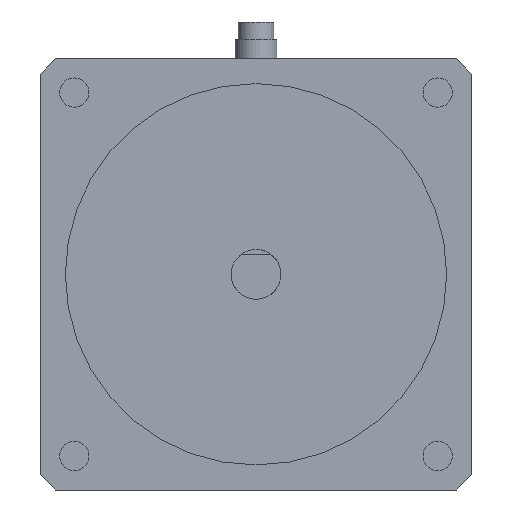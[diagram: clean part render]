
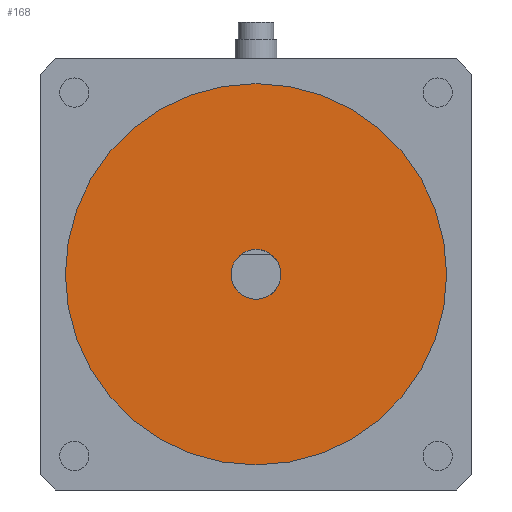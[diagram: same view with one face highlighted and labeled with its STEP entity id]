
A CAD part, front view. The second image highlights one B-rep face of the part: STEP entity #168.
In plain terms, the highlighted planar face has unit normal (0, -1, 0).
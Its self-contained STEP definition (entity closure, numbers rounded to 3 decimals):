
#168 = ADVANCED_FACE( '', ( #404, #405 ), #406, .F. );
#404 = FACE_BOUND( '', #716, .T. );
#405 = FACE_OUTER_BOUND( '', #717, .T. );
#406 = PLANE( '', #718 );
#716 = EDGE_LOOP( '', ( #1143 ) );
#717 = EDGE_LOOP( '', ( #1144 ) );
#718 = AXIS2_PLACEMENT_3D( '', #1145, #1146, #1147 );
#1143 = ORIENTED_EDGE( '', *, *, #1682, .T. );
#1144 = ORIENTED_EDGE( '', *, *, #1683, .F. );
#1145 = CARTESIAN_POINT( '', ( -222.076, -2.5, -12.889 ) );
#1146 = DIRECTION( '', ( 0., 1., 0. ) );
#1147 = DIRECTION( '', ( 0., 0., 1. ) );
#1682 = EDGE_CURVE( '', #2003, #2003, #2004, .T. );
#1683 = EDGE_CURVE( '', #2005, #2005, #2006, .T. );
#2003 = VERTEX_POINT( '', #2472 );
#2004 = CIRCLE( '', #2473, 4.765 );
#2005 = VERTEX_POINT( '', #2474 );
#2006 = CIRCLE( '', #2475, 36.5 );
#2472 = CARTESIAN_POINT( '', ( -217.311, -2.5, -12.889 ) );
#2473 = AXIS2_PLACEMENT_3D( '', #2951, #2952, #2953 );
#2474 = CARTESIAN_POINT( '', ( -185.576, -2.5, -12.889 ) );
#2475 = AXIS2_PLACEMENT_3D( '', #2954, #2955, #2956 );
#2951 = CARTESIAN_POINT( '', ( -222.076, -2.5, -12.889 ) );
#2952 = DIRECTION( '', ( 0., 1., 0. ) );
#2953 = DIRECTION( '', ( 1., 0., 0. ) );
#2954 = CARTESIAN_POINT( '', ( -222.076, -2.5, -12.889 ) );
#2955 = DIRECTION( '', ( 0., 1., 0. ) );
#2956 = DIRECTION( '', ( 1., 0., 0. ) );
